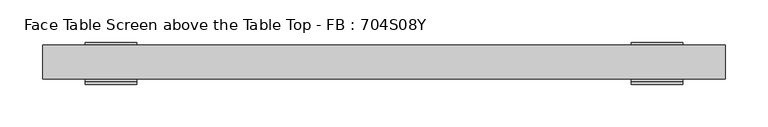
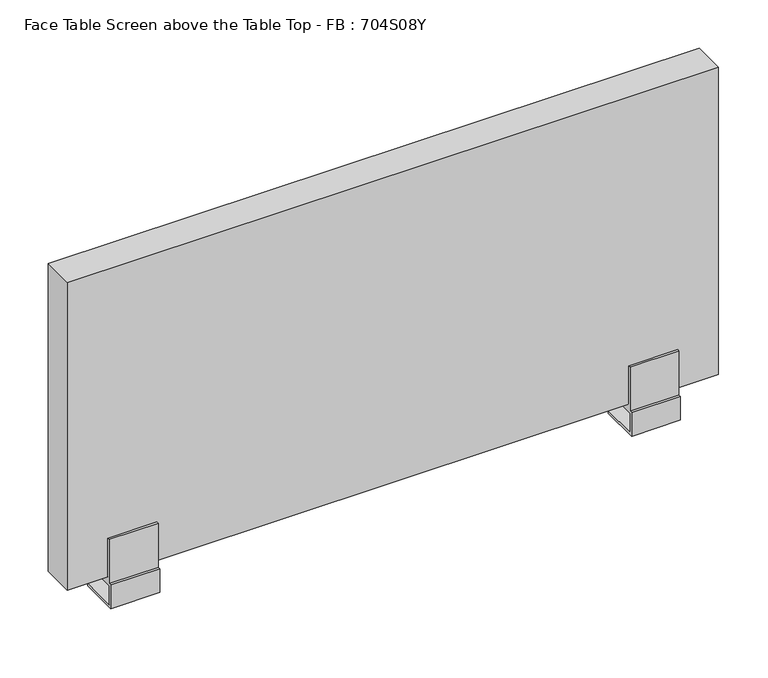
"""IFC4 building model written with IfcOpenShell, lengths in millimetres: furniture geometry, Face Table Screen above the Table Top - FB : 704S08Y."""

import ifcopenshell
import ifcopenshell.guid

model = None  # the IFC model being written
_history = None  # IfcOwnerHistory: only IFC2X3 demands one
_inside = {}  # id of a spatial element -> (the spatial element, [elements in it])
_under = {}  # id of a project, library or spatial element -> (it, [spatial elements below it])
_declared = {}  # id of a project -> (the project, [libraries it declares])
_typed = {}  # id of a type object -> (the type object, [elements of that type])
_made_of = {}  # id of a material, layer set ... -> (it, [elements and type objects made of it])


def new_model(schema):
    """Start an empty IFC model of exactly this schema.

    Asked for "IFC4X3", IfcOpenShell would pick the latest addendum, in which some entities
    have other attributes; the version numbers below select the first issue.
    IFC2X3 requires an IfcOwnerHistory on every rooted entity: one is made here for all.
    """
    global model, _history
    if schema == "IFC4X3":
        model = ifcopenshell.file(schema_version=(4, 3, 0, 0))
    else:
        model = ifcopenshell.file(schema=schema)
    _inside.clear()
    _under.clear()
    _declared.clear()
    _typed.clear()
    _made_of.clear()
    _history = None
    if model.schema == "IFC2X3":
        org = make("IfcOrganization", Name="unknown")
        user = make(
            "IfcPersonAndOrganization",
            ThePerson=make("IfcPerson", FamilyName="unknown"),
            TheOrganization=org,
        )
        app = make(
            "IfcApplication",
            ApplicationDeveloper=org,
            Version="unknown",
            ApplicationFullName="unknown",
            ApplicationIdentifier="unknown",
        )
        _history = make(
            "IfcOwnerHistory",
            OwningUser=user,
            OwningApplication=app,
            ChangeAction="ADDED",
            CreationDate=0,
        )
    return model


def make(cls, **values):
    """One entity of the class cls with the attributes given. An attribute that is None is left unset."""
    return model.create_entity(
        cls, **{name: value for name, value in values.items() if value is not None}
    )


def rooted(cls, **values):
    """An entity with a GlobalId (a new one), such as an element, a storey or a relation."""
    return make(cls, GlobalId=ifcopenshell.guid.new(), OwnerHistory=_history, **values)


def si_unit(unit_type, name, prefix=None):
    """IfcSIUnit, for example si_unit("LENGTHUNIT", "METRE", prefix="MILLI")."""
    return make("IfcSIUnit", UnitType=unit_type, Prefix=prefix, Name=name)


def assignment(units):
    """IfcUnitAssignment: the units of a project."""
    return None if units is None else make("IfcUnitAssignment", Units=units)


def point(xyz):
    """IfcCartesianPoint."""
    return None if xyz is None else make("IfcCartesianPoint", Coordinates=xyz)


def direction(xyz):
    """IfcDirection."""
    return None if xyz is None else make("IfcDirection", DirectionRatios=xyz)


def frame(location, z_axis=None, x_axis=None):
    """IfcAxis2Placement3D, a coordinate frame: its origin and axes. An axis left out is left unset."""
    return make(
        "IfcAxis2Placement3D",
        Location=point(location),
        Axis=direction(z_axis),
        RefDirection=direction(x_axis),
    )


def origin():
    """The frame at (0, 0, 0) with its axes left unset."""
    return frame((0.0, 0.0, 0.0))


def place(relative_to, where):
    """IfcLocalPlacement: puts the frame where relative to a parent placement (None: the world)."""
    return make(
        "IfcLocalPlacement", PlacementRelTo=relative_to, RelativePlacement=where
    )


def context(
    kind, dimensions, precision=None, world=None, true_north=None, identifier=None
):
    """IfcGeometricRepresentationContext, for example the 3D "Model" context."""
    return make(
        "IfcGeometricRepresentationContext",
        ContextIdentifier=identifier,
        ContextType=kind,
        CoordinateSpaceDimension=dimensions,
        Precision=precision,
        WorldCoordinateSystem=world,
        TrueNorth=true_north,
    )


def project(units=None, contexts=None):
    """IfcProject with its units and contexts."""
    return rooted(
        "IfcProject",
        Name="project",
        RepresentationContexts=contexts,
        UnitsInContext=assignment(units),
    )


def spatial(cls, under=None, at=None, **own):
    """A site, building, storey or space (cls), placed at a placement, below another one or the project."""
    s = rooted(cls, ObjectPlacement=at, **own)
    if under is not None:
        _under.setdefault(under.id(), (under, []))[1].append(s)
    return s


def polyline(points):
    """IfcPolyline through the points."""
    return make("IfcPolyline", Points=[point(p) for p in points])


def circle_curve(where, radius):
    """IfcCircle in the frame where."""
    return make("IfcCircle", Position=where, Radius=radius)


def outline(outer, holes=None, kind="AREA"):
    """IfcArbitraryClosedProfileDef: a profile drawn as a closed curve; with holes, ...WithVoids."""
    if holes is None:
        return make("IfcArbitraryClosedProfileDef", ProfileType=kind, OuterCurve=outer)
    return make(
        "IfcArbitraryProfileDefWithVoids",
        ProfileType=kind,
        OuterCurve=outer,
        InnerCurves=holes,
    )


def extrude(swept, where, along, depth):
    """IfcExtrudedAreaSolid: the profile swept, set in the frame where, extruded along a direction by depth."""
    return make(
        "IfcExtrudedAreaSolid",
        SweptArea=swept,
        Position=where,
        ExtrudedDirection=direction(along),
        Depth=depth,
    )


def shape(context_of_items, identifier, shape_type, items):
    """IfcShapeRepresentation: the items that make up one representation, for example the "Body"."""
    return make(
        "IfcShapeRepresentation",
        ContextOfItems=context_of_items,
        RepresentationIdentifier=identifier,
        RepresentationType=shape_type,
        Items=items,
    )


def source(mapping_origin, context_of_items, identifier, shape_type, items):
    """IfcRepresentationMap: a shape defined once, which mapped items show again and again."""
    return make(
        "IfcRepresentationMap",
        MappingOrigin=mapping_origin,
        MappedRepresentation=shape(context_of_items, identifier, shape_type, items),
    )


def transform(
    local_origin,
    x_axis=None,
    y_axis=None,
    z_axis=None,
    scale=None,
    scale2=None,
    scale3=None,
    uniform=True,
):
    """IfcCartesianTransformationOperator3D, or its non-uniform kind. x_axis, y_axis, z_axis: its Axis1, 2, 3."""
    if uniform:
        return make(
            "IfcCartesianTransformationOperator3D",
            Axis1=direction(x_axis),
            Axis2=direction(y_axis),
            LocalOrigin=point(local_origin),
            Scale=scale,
            Axis3=direction(z_axis),
        )
    return make(
        "IfcCartesianTransformationOperator3DnonUniform",
        Axis1=direction(x_axis),
        Axis2=direction(y_axis),
        LocalOrigin=point(local_origin),
        Scale=scale,
        Axis3=direction(z_axis),
        Scale2=scale2,
        Scale3=scale3,
    )


def mapped(mapping_source, mapping_target):
    """IfcMappedItem: shows the shape of a source again, moved by a transform."""
    return make(
        "IfcMappedItem", MappingSource=mapping_source, MappingTarget=mapping_target
    )


def made_of(thing, what):
    """Note that an element or type object is made of a material, layer set ...; save() writes the relation."""
    if what is not None:
        _made_of.setdefault(what.id(), (what, []))[1].append(thing)
    return thing


def element(
    cls,
    number,
    at=None,
    inside=None,
    cuts=None,
    type_object=None,
    material=None,
    context=None,
    identifier="Body",
    shape_type=None,
    held_by="IfcProductDefinitionShape",
    body=None,
    shapes=None,
    **own,
):
    """One element of the class cls, such as IfcWall. Its Tag is "e" and its number.

    at: its placement. inside: the storey or other place that contains it. cuts: it is an
    opening in that element (IfcRelVoidsElement). A single representation is given by context,
    identifier, shape_type and body (its items); several are given by shapes. held_by: the class
    of the entity that holds the representations. save() writes the other relations.
    """
    e = rooted(cls, Tag="e%d" % number, ObjectPlacement=at, **own)
    if body is not None:
        shapes = [shape(context, identifier, shape_type, body)]
    if shapes is not None:
        e.Representation = make(held_by, Representations=shapes)
    if inside is not None:
        _inside.setdefault(inside.id(), (inside, []))[1].append(e)
    if cuts is not None:
        rooted(
            "IfcRelVoidsElement", RelatingBuildingElement=cuts, RelatedOpeningElement=e
        )
    if type_object is not None:
        _typed.setdefault(type_object.id(), (type_object, []))[1].append(e)
    return made_of(e, material)


def aggregate(whole, parts):
    """IfcRelAggregates: a whole, such as a stair, and the parts it consists of."""
    return rooted("IfcRelAggregates", RelatingObject=whole, RelatedObjects=parts)


def save(model, path):
    """Write the relations noted so far, then the file.

    IfcRelAggregates (storeys below a building ...), IfcRelContainedInSpatialStructure (elements
    in a storey), IfcRelDefinesByType, IfcRelAssociatesMaterial and IfcRelDeclares: one each for
    every whole, place, type object, material and project.
    """
    for whole, parts in _under.values():
        aggregate(whole, parts)
    for where, things in _inside.values():
        rooted(
            "IfcRelContainedInSpatialStructure",
            RelatedElements=things,
            RelatingStructure=where,
        )
    for kind, things in _typed.values():
        rooted("IfcRelDefinesByType", RelatedObjects=things, RelatingType=kind)
    for what, things in _made_of.values():
        rooted("IfcRelAssociatesMaterial", RelatedObjects=things, RelatingMaterial=what)
    for by, libraries in _declared.values():
        rooted("IfcRelDeclares", RelatingContext=by, RelatedDefinitions=libraries)
    model.write(path)


def plane_surface(at):
    """IfcPlane: the flat surface through the origin of the frame at, square to its z axis."""
    return make("IfcPlane", Position=at)


def cylinder_surface(at, radius):
    """IfcCylindricalSurface: all points at the distance radius from the z axis of the frame at."""
    return make("IfcCylindricalSurface", Position=at, Radius=radius)


def advanced_brep(points, edges, surfaces, faces):
    """IfcAdvancedBrep: a solid bounded by faces that lie on surfaces and meet in shared edges.

    An edge is (start, end): straight between two places in points (the first is 0);
    or (start, end, curve); or (start, end, curve, False) where it runs against its curve.
    A face is (place in surfaces, loops), or (place, loops, False) where it looks against
    its surface's normal. A loop lists edges by number (the first is 1), with a minus sign
    where the edge is run from its end to its start. The first loop is the outer one.
    """
    corners = [point(p) for p in points]
    vertices = [make("IfcVertexPoint", VertexGeometry=c) for c in corners]
    made = []
    for start, end, *more in edges:
        made.append(
            make(
                "IfcEdgeCurve",
                EdgeStart=vertices[start],
                EdgeEnd=vertices[end],
                EdgeGeometry=more[0] if more else make("IfcPolyline", Points=[corners[start], corners[end]]),
                SameSense=more[1] if len(more) > 1 else True,
            )
        )
    hull = []
    for where, loops, *sense in faces:
        bounds = []
        for j, loop in enumerate(loops):
            ring = [make("IfcOrientedEdge", EdgeElement=made[abs(k) - 1], Orientation=k > 0) for k in loop]
            bounds.append(
                make(
                    "IfcFaceOuterBound" if j == 0 else "IfcFaceBound",
                    Bound=make("IfcEdgeLoop", EdgeList=ring),
                    Orientation=True,
                )
            )
        hull.append(make("IfcAdvancedFace", Bounds=bounds, FaceSurface=surfaces[where], SameSense=sense[0] if sense else True))
    return make("IfcAdvancedBrep", Outer=make("IfcClosedShell", CfsFaces=hull))


def face_table_screen_above_the_table_top_fb_704s08y_3d9364f4(model_context):
    return source(origin(), model_context, "Body", "SolidModel", [
        advanced_brep(
        [(-325.0, 20.0, -39.4406633), (-315.0, 20.0, -39.4406633), (-315.0, 20.0, -28.0), (-325.0, 20.0, -28.0), (-350.0, 43.0, -25.0), (-350.0, -3.0, -25.0), (-290.0, -3.0, -25.0), (-290.0, 43.0, -25.0), (-350.0, -3.0, 0.0), (-350.0, 43.0, -28.0), (-350.0, -6.0, -28.0), (-350.0, -6.0, 3.0), (-350.0, -3.0, 3.0), (-350.0, -3.0, 60.0), (-350.0, 0.0, 60.0), (-350.0, 0.0, 10.0), (-350.0, 40.0, 10.0), (-350.0, 40.0, 60.0), (-350.0, 43.0, 60.0), (-350.0, 43.0, 0.0), (-290.0, -3.0, 0.0), (-290.0, 43.0, 0.0), (-290.0, 43.0, 60.0), (-290.0, 40.0, 60.0), (-290.0, 40.0, 10.0), (-290.0, 0.0, 10.0), (-290.0, 0.0, 60.0), (-290.0, -3.0, 60.0), (-290.0, -3.0, 3.0), (-290.0, -6.0, 3.0), (-290.0, -6.0, -28.0), (-290.0, 43.0, -28.0)],
        [
            (0, 1, circle_curve(frame((-320.0, 20.0, -39.4406633), z_axis=(0.0, 0.0, -1.0), x_axis=(1.0, 0.0, 0.0)), 5.0)),
            (1, 0, circle_curve(frame((-320.0, 20.0, -39.4406633), z_axis=(0.0, 0.0, -1.0), x_axis=(1.0, 0.0, 0.0)), 5.0)),
            (1, 2),
            (2, 3, circle_curve(frame((-320.0, 20.0, -28.0), z_axis=(0.0, 0.0, -1.0), x_axis=(1.0, 0.0, 0.0)), 5.0)),
            (3, 0),
            (3, 2, circle_curve(frame((-320.0, 20.0, -28.0), z_axis=(0.0, 0.0, -1.0), x_axis=(1.0, 0.0, 0.0)), 5.0)),
            (4, 5),
            (5, 6),
            (6, 7),
            (7, 4),
            (8, 5),
            (4, 9),
            (9, 10),
            (10, 11),
            (11, 12),
            (12, 13),
            (13, 14),
            (14, 15),
            (15, 16),
            (16, 17),
            (17, 18),
            (18, 19),
            (19, 8),
            (20, 21),
            (21, 22),
            (22, 23),
            (23, 24),
            (24, 25),
            (25, 26),
            (26, 27),
            (27, 28),
            (28, 29),
            (29, 30),
            (30, 31),
            (31, 7),
            (6, 20),
            (19, 21),
            (20, 8),
            (18, 22),
            (17, 23),
            (16, 24),
            (15, 25),
            (14, 26),
            (13, 27),
            (12, 28),
            (11, 29),
            (10, 30),
            (9, 31),
        ],
        [
            plane_surface(frame((-315.0, 20.0, -39.4406633), z_axis=(0.0, 0.0, -1.0), x_axis=(0.0, -1.0, 0.0))),
            cylinder_surface(frame((-320.0, 20.0, -39.4406633), z_axis=(0.0, 0.0, 1.0), x_axis=(1.0, 0.0, 0.0)), 5.0),
            plane_surface(frame((-315.0, 20.0, -25.0), z_axis=(0.0, 0.0, 1.0), x_axis=(0.0, 1.0, 0.0))),
            plane_surface(frame((-350.0, 43.0, 0.0), z_axis=(-1.0, 0.0, 0.0), x_axis=(0.0, -1.0, 0.0))),
            plane_surface(frame((-290.0, 43.0, 0.0), z_axis=(1.0, 0.0, 0.0), x_axis=(0.0, 1.0, 0.0))),
            plane_surface(frame((-290.0, -3.0, 0.0), z_axis=(0.0, 0.0, -1.0), x_axis=(-1.0, 0.0, 0.0))),
            plane_surface(frame((-290.0, 43.0, 0.0), z_axis=(0.0, 1.0, 0.0), x_axis=(-1.0, 0.0, 0.0))),
            plane_surface(frame((-290.0, 43.0, 60.0), z_axis=(0.0, 0.0, 1.0), x_axis=(-1.0, 0.0, 0.0))),
            plane_surface(frame((-290.0, 40.0, 60.0), z_axis=(0.0, -1.0, 0.0), x_axis=(-1.0, 0.0, 0.0))),
            plane_surface(frame((-290.0, 40.0, 10.0), z_axis=(0.0, 0.0, 1.0), x_axis=(-1.0, 0.0, 0.0))),
            plane_surface(frame((-290.0, 0.0, 10.0), z_axis=(0.0, 1.0, 0.0), x_axis=(-1.0, 0.0, 0.0))),
            plane_surface(frame((-290.0, 0.0, 60.0), z_axis=(0.0, 0.0, 1.0), x_axis=(-1.0, 0.0, 0.0))),
            plane_surface(frame((-290.0, -3.0, 60.0), z_axis=(0.0, -1.0, 0.0), x_axis=(-1.0, 0.0, 0.0))),
            plane_surface(frame((-290.0, -3.0, 3.0), z_axis=(0.0, 0.0, 1.0), x_axis=(-1.0, 0.0, 0.0))),
            plane_surface(frame((-290.0, -6.0, 3.0), z_axis=(0.0, -1.0, 0.0), x_axis=(-1.0, 0.0, 0.0))),
            plane_surface(frame((-290.0, -6.0, -28.0), z_axis=(0.0, 0.0, -1.0), x_axis=(-1.0, 0.0, 0.0))),
            plane_surface(frame((-290.0, 43.0, -28.0), z_axis=(0.0, 1.0, 0.0), x_axis=(-1.0, 0.0, 0.0))),
            plane_surface(frame((-290.0, -3.0, -25.0), z_axis=(0.0, 1.0, 0.0), x_axis=(-1.0, 0.0, 0.0))),
        ],
        [
            (0, [[1, 2]]),
            (1, [[-2, 3, 4, 5]]),
            (1, [[-1, -5, 6, -3]]),
            (2, [[7, 8, 9, 10]]),
            (3, [[11, -7, 12, 13, 14, 15, 16, 17, 18, 19, 20, 21, 22, 23]]),
            (4, [[24, 25, 26, 27, 28, 29, 30, 31, 32, 33, 34, 35, -9, 36]]),
            (5, [[-23, 37, -24, 38]]),
            (6, [[-22, 39, -25, -37]]),
            (7, [[-21, 40, -26, -39]]),
            (8, [[-20, 41, -27, -40]]),
            (9, [[-19, 42, -28, -41]]),
            (10, [[-18, 43, -29, -42]]),
            (11, [[-17, 44, -30, -43]]),
            (12, [[-16, 45, -31, -44]]),
            (13, [[-15, 46, -32, -45]]),
            (14, [[-14, 47, -33, -46]]),
            (15, [[-13, 48, -34, -47], [-4, -6]]),
            (16, [[-12, -10, -35, -48]]),
            (17, [[-11, -38, -36, -8]]),
        ],
    ),
        advanced_brep(
        [(315.0, 20.0, -39.4406633), (325.0, 20.0, -39.4406633), (325.0, 20.0, -28.0), (315.0, 20.0, -28.0), (290.0, 43.0, -25.0), (290.0, -3.0, -25.0), (350.0, -3.0, -25.0), (350.0, 43.0, -25.0), (290.0, -3.0, 0.0), (290.0, 43.0, -28.0), (290.0, -6.0, -28.0), (290.0, -6.0, 3.0), (290.0, -3.0, 3.0), (290.0, -3.0, 60.0), (290.0, 0.0, 60.0), (290.0, 0.0, 10.0), (290.0, 40.0, 10.0), (290.0, 40.0, 60.0), (290.0, 43.0, 60.0), (290.0, 43.0, 0.0), (350.0, -3.0, 0.0), (350.0, 43.0, 0.0), (350.0, 43.0, 60.0), (350.0, 40.0, 60.0), (350.0, 40.0, 10.0), (350.0, 0.0, 10.0), (350.0, 0.0, 60.0), (350.0, -3.0, 60.0), (350.0, -3.0, 3.0), (350.0, -6.0, 3.0), (350.0, -6.0, -28.0), (350.0, 43.0, -28.0)],
        [
            (0, 1, circle_curve(frame((320.0, 20.0, -39.4406633), z_axis=(0.0, 0.0, -1.0), x_axis=(1.0, 0.0, 0.0)), 5.0)),
            (1, 0, circle_curve(frame((320.0, 20.0, -39.4406633), z_axis=(0.0, 0.0, -1.0), x_axis=(1.0, 0.0, 0.0)), 5.0)),
            (1, 2),
            (2, 3, circle_curve(frame((320.0, 20.0, -28.0), z_axis=(0.0, 0.0, -1.0), x_axis=(1.0, 0.0, 0.0)), 5.0)),
            (3, 0),
            (3, 2, circle_curve(frame((320.0, 20.0, -28.0), z_axis=(0.0, 0.0, -1.0), x_axis=(1.0, 0.0, 0.0)), 5.0)),
            (4, 5),
            (5, 6),
            (6, 7),
            (7, 4),
            (8, 5),
            (4, 9),
            (9, 10),
            (10, 11),
            (11, 12),
            (12, 13),
            (13, 14),
            (14, 15),
            (15, 16),
            (16, 17),
            (17, 18),
            (18, 19),
            (19, 8),
            (20, 21),
            (21, 22),
            (22, 23),
            (23, 24),
            (24, 25),
            (25, 26),
            (26, 27),
            (27, 28),
            (28, 29),
            (29, 30),
            (30, 31),
            (31, 7),
            (6, 20),
            (19, 21),
            (20, 8),
            (18, 22),
            (17, 23),
            (16, 24),
            (15, 25),
            (14, 26),
            (13, 27),
            (12, 28),
            (11, 29),
            (10, 30),
            (9, 31),
        ],
        [
            plane_surface(frame((325.0, 20.0, -39.4406633), z_axis=(0.0, 0.0, -1.0), x_axis=(0.0, -1.0, 0.0))),
            cylinder_surface(frame((320.0, 20.0, -39.4406633), z_axis=(0.0, 0.0, 1.0), x_axis=(1.0, 0.0, 0.0)), 5.0),
            plane_surface(frame((325.0, 20.0, -25.0), z_axis=(0.0, 0.0, 1.0), x_axis=(0.0, 1.0, 0.0))),
            plane_surface(frame((290.0, 43.0, 0.0), z_axis=(-1.0, 0.0, 0.0), x_axis=(0.0, -1.0, 0.0))),
            plane_surface(frame((350.0, 43.0, 0.0), z_axis=(1.0, 0.0, 0.0), x_axis=(0.0, 1.0, 0.0))),
            plane_surface(frame((350.0, -3.0, 0.0), z_axis=(0.0, 0.0, -1.0), x_axis=(-1.0, 0.0, 0.0))),
            plane_surface(frame((350.0, 43.0, 0.0), z_axis=(0.0, 1.0, 0.0), x_axis=(-1.0, 0.0, 0.0))),
            plane_surface(frame((350.0, 43.0, 60.0), z_axis=(0.0, 0.0, 1.0), x_axis=(-1.0, 0.0, 0.0))),
            plane_surface(frame((350.0, 40.0, 60.0), z_axis=(0.0, -1.0, 0.0), x_axis=(-1.0, 0.0, 0.0))),
            plane_surface(frame((350.0, 40.0, 10.0), z_axis=(0.0, 0.0, 1.0), x_axis=(-1.0, 0.0, 0.0))),
            plane_surface(frame((350.0, 0.0, 10.0), z_axis=(0.0, 1.0, 0.0), x_axis=(-1.0, 0.0, 0.0))),
            plane_surface(frame((350.0, 0.0, 60.0), z_axis=(0.0, 0.0, 1.0), x_axis=(-1.0, 0.0, 0.0))),
            plane_surface(frame((350.0, -3.0, 60.0), z_axis=(0.0, -1.0, 0.0), x_axis=(-1.0, 0.0, 0.0))),
            plane_surface(frame((350.0, -3.0, 3.0), z_axis=(0.0, 0.0, 1.0), x_axis=(-1.0, 0.0, 0.0))),
            plane_surface(frame((350.0, -6.0, 3.0), z_axis=(0.0, -1.0, 0.0), x_axis=(-1.0, 0.0, 0.0))),
            plane_surface(frame((350.0, -6.0, -28.0), z_axis=(0.0, 0.0, -1.0), x_axis=(-1.0, 0.0, 0.0))),
            plane_surface(frame((350.0, 43.0, -28.0), z_axis=(0.0, 1.0, 0.0), x_axis=(-1.0, 0.0, 0.0))),
            plane_surface(frame((350.0, -3.0, -25.0), z_axis=(0.0, 1.0, 0.0), x_axis=(-1.0, 0.0, 0.0))),
        ],
        [
            (0, [[1, 2]]),
            (1, [[-2, 3, 4, 5]]),
            (1, [[-1, -5, 6, -3]]),
            (2, [[7, 8, 9, 10]]),
            (3, [[11, -7, 12, 13, 14, 15, 16, 17, 18, 19, 20, 21, 22, 23]]),
            (4, [[24, 25, 26, 27, 28, 29, 30, 31, 32, 33, 34, 35, -9, 36]]),
            (5, [[-23, 37, -24, 38]]),
            (6, [[-22, 39, -25, -37]]),
            (7, [[-21, 40, -26, -39]]),
            (8, [[-20, 41, -27, -40]]),
            (9, [[-19, 42, -28, -41]]),
            (10, [[-18, 43, -29, -42]]),
            (11, [[-17, 44, -30, -43]]),
            (12, [[-16, 45, -31, -44]]),
            (13, [[-15, 46, -32, -45]]),
            (14, [[-14, 47, -33, -46]]),
            (15, [[-13, 48, -34, -47], [-4, -6]]),
            (16, [[-12, -10, -35, -48]]),
            (17, [[-11, -38, -36, -8]]),
        ],
    ),
        extrude(outline(polyline([(400.0, 0.0), (-400.0, 0.0), (-400.0, 40.0), (400.0, 40.0), (400.0, 0.0)])), frame((0.0, 0.0, 10.0), z_axis=(0.0, 0.0, 1.0), x_axis=(1.0, 0.0, 0.0)), (0.0, 0.0, 1.0), 400.0),
    ])


if __name__ == "__main__":
    model = new_model("IFC4")
    model_context = context("Model", 3, world=origin())
    ifc_project = project(units=[si_unit("LENGTHUNIT", "METRE", prefix="MILLI")], contexts=[model_context])
    site = spatial("IfcSite", under=ifc_project)
    building = spatial("IfcBuilding", under=site)
    placement = place(None, origin())
    face_table_screen_above_the_table_top_fb_704s08y_shape = face_table_screen_above_the_table_top_fb_704s08y_3d9364f4(model_context)
    element("IfcFurniture", 1, ObjectType="Face Table Screen above the Table Top - FB : 704S08Y", at=placement, inside=building, context=model_context, shape_type="MappedRepresentation", body=[
        mapped(face_table_screen_above_the_table_top_fb_704s08y_shape, transform((0.0, 0.0, 0.0), x_axis=(1.0, 0.0, 0.0), y_axis=(0.0, 1.0, 0.0), z_axis=(0.0, 0.0, 1.0))),
    ])
    save(model, "model.ifc")
